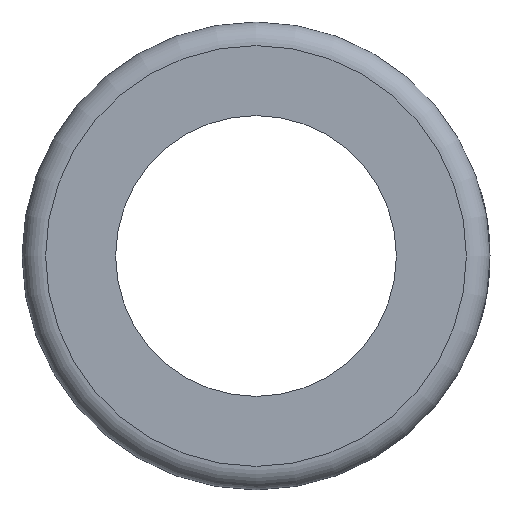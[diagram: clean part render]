
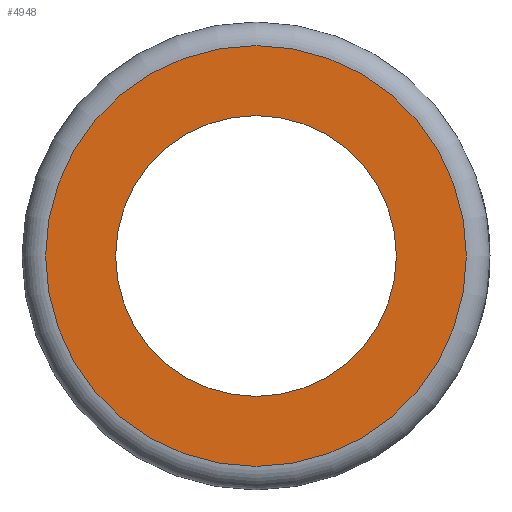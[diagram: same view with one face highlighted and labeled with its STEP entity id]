
A CAD part, left-side view. The second image highlights one B-rep face of the part: STEP entity #4948.
In plain terms, the highlighted planar face has unit normal (-1, 0, 0).
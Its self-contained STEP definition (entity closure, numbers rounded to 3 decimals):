
#1125=PLANE('',#5272);
#1284=ORIENTED_EDGE('',*,*,#2772,.T.);
#1285=ORIENTED_EDGE('',*,*,#2773,.T.);
#2772=EDGE_CURVE('',#3516,#3516,#4018,.F.);
#2773=EDGE_CURVE('',#3517,#3517,#4019,.T.);
#3516=VERTEX_POINT('',#6748);
#3517=VERTEX_POINT('',#6750);
#4018=CIRCLE('',#5273,7.138);
#4019=CIRCLE('',#5274,4.763);
#4162=EDGE_LOOP('',(#1284));
#4163=EDGE_LOOP('',(#1285));
#4530=FACE_BOUND('',#4162,.T.);
#4531=FACE_BOUND('',#4163,.T.);
#4948=ADVANCED_FACE('',(#4530,#4531),#1125,.F.);
#5272=AXIS2_PLACEMENT_3D('',#6746,#5636,#5637);
#5273=AXIS2_PLACEMENT_3D('',#6747,#5638,#5639);
#5274=AXIS2_PLACEMENT_3D('',#6749,#5640,#5641);
#5636=DIRECTION('',(1.,0.,0.));
#5637=DIRECTION('',(0.,0.,-1.));
#5638=DIRECTION('',(1.,0.,0.));
#5639=DIRECTION('',(0.,0.,-1.));
#5640=DIRECTION('',(1.,0.,0.));
#5641=DIRECTION('',(0.,0.,-1.));
#6746=CARTESIAN_POINT('',(-11.113,0.,0.));
#6747=CARTESIAN_POINT('',(-11.113,0.,0.));
#6748=CARTESIAN_POINT('',(-11.113,0.,-7.138));
#6749=CARTESIAN_POINT('',(-11.113,0.,0.));
#6750=CARTESIAN_POINT('',(-11.113,0.,-4.763));
